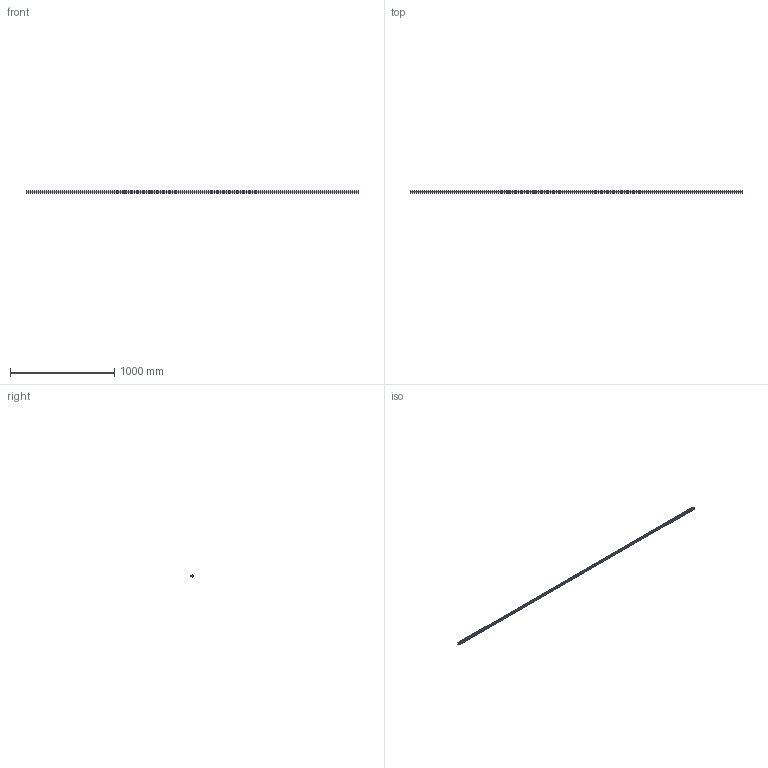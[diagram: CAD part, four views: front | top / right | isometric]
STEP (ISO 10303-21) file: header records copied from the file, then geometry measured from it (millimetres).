
FILE_DESCRIPTION (( 'STEP AP203' ), '1' );
FILE_NAME ('L1018.20R-3180.step', '2023-08-06T09:16:16', ( '' ), ( '' ), 'SwSTEP 2.0', 'SolidWorks 2019', '' );
FILE_SCHEMA (( 'CONFIG_CONTROL_DESIGN' ));
Length unit declared in the file: millimetre
Products named in the file (1): L1018.20R-3180
Bounding box: 3180 x 19.3 x 20 mm (x, y, z)
Volume: 1008467.9 mm3; surface area: 269016.8 mm2
Topology: 1 solids, 1 shells, 506 faces, 1141 edges, 637 vertices
Faces by surface type: cylinder 215, cone 212, plane 79
Entity records: 13400 total; most frequent: DIRECTION 2585, CARTESIAN_POINT 2179, ORIENTED_EDGE 2070, AXIS2_PLACEMENT_3D 1043, EDGE_CURVE 1035, VERTEX_POINT 637, EDGE_LOOP 612, CIRCLE 536
